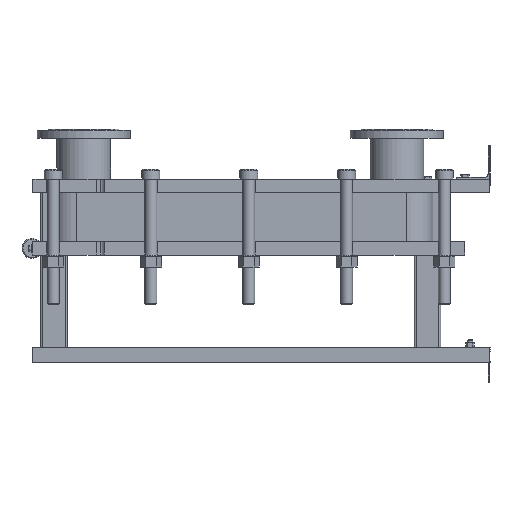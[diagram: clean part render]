
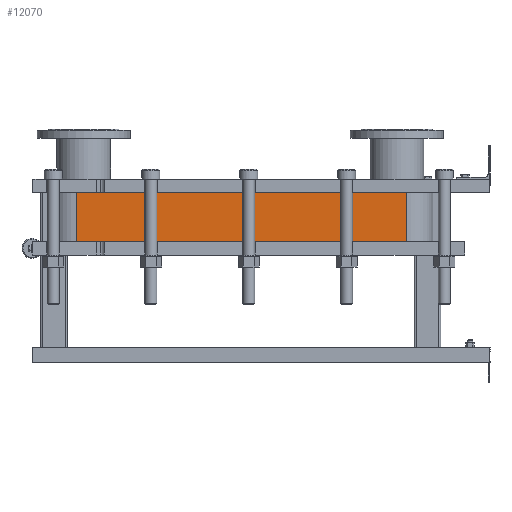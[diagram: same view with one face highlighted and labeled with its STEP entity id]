
A CAD part, left-side view. The second image highlights one B-rep face of the part: STEP entity #12070.
In plain terms, the highlighted planar face has unit normal (-1, 0, 0).
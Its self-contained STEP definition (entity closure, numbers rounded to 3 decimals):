
#1064=LINE('',#21140,#2164);
#1065=LINE('',#21144,#2165);
#1066=LINE('',#21146,#2166);
#1067=LINE('',#21147,#2167);
#2164=VECTOR('',#15790,10.);
#2165=VECTOR('',#15795,10.);
#2166=VECTOR('',#15796,10.);
#2167=VECTOR('',#15797,10.);
#3304=FACE_OUTER_BOUND('',#4091,.T.);
#4091=EDGE_LOOP('',(#9793,#9794,#9795,#9796));
#5677=VERTEX_POINT('',#21137);
#5678=VERTEX_POINT('',#21139);
#5679=VERTEX_POINT('',#21143);
#5680=VERTEX_POINT('',#21145);
#7118=EDGE_CURVE('',#5678,#5677,#1064,.T.);
#7120=EDGE_CURVE('',#5677,#5679,#1065,.T.);
#7121=EDGE_CURVE('',#5680,#5679,#1066,.T.);
#7122=EDGE_CURVE('',#5680,#5678,#1067,.T.);
#9793=ORIENTED_EDGE('',*,*,#7120,.T.);
#9794=ORIENTED_EDGE('',*,*,#7121,.F.);
#9795=ORIENTED_EDGE('',*,*,#7122,.T.);
#9796=ORIENTED_EDGE('',*,*,#7118,.T.);
#11441=PLANE('',#13191);
#12070=ADVANCED_FACE('',(#3304),#11441,.T.);
#13191=AXIS2_PLACEMENT_3D('',#21142,#15793,#15794);
#15790=DIRECTION('',(0.,0.,-1.));
#15793=DIRECTION('center_axis',(-1.,0.,0.));
#15794=DIRECTION('ref_axis',(0.,1.,0.));
#15795=DIRECTION('',(0.,-1.,0.));
#15796=DIRECTION('',(0.,0.,-1.));
#15797=DIRECTION('',(0.,1.,0.));
#21137=CARTESIAN_POINT('',(-248.152,1243.818,-148.35));
#21139=CARTESIAN_POINT('',(-248.152,1243.818,0.));
#21140=CARTESIAN_POINT('',(-248.152,1243.818,0.));
#21142=CARTESIAN_POINT('Origin',(-248.152,251.818,0.));
#21143=CARTESIAN_POINT('',(-248.152,251.818,-148.35));
#21144=CARTESIAN_POINT('',(-248.152,499.818,-148.35));
#21145=CARTESIAN_POINT('',(-248.152,251.818,0.));
#21146=CARTESIAN_POINT('',(-248.152,251.818,0.));
#21147=CARTESIAN_POINT('',(-248.152,251.818,0.));
